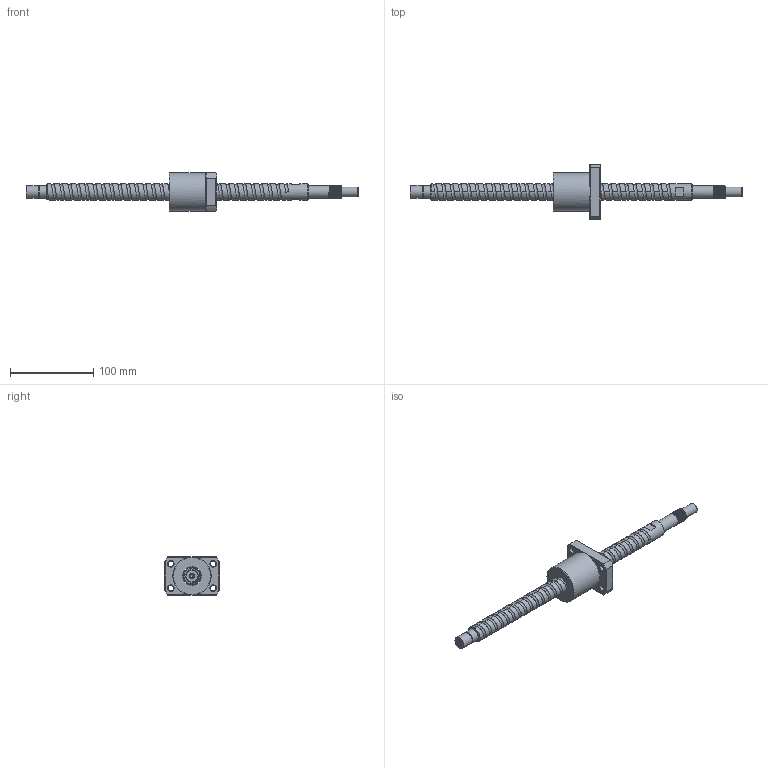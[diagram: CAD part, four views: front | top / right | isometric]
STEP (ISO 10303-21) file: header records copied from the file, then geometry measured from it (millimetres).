
FILE_DESCRIPTION (( 'STEP AP203' ), '1' );
FILE_NAME ('XSVR02010B1DGC5-399-P1.step', '2024-06-03T06:19:19', ( '' ), ( '' ), 'SwSTEP 2.0', 'SolidWorks 2022', '' );
FILE_SCHEMA (( 'CONFIG_CONTROL_DESIGN' ));
Products named in the file (1): XSVR02010B1DGC5-399-P1
Bounding box: 399 x 66 x 46 mm (x, y, z)
Volume: 191047.5 mm3; surface area: 45907.7 mm2
Topology: 2 solids, 2 shells, 189 faces, 516 edges, 339 vertices
Faces by surface type: cylinder 89, plane 40, bspline 31, cone 20, torus 9
Full cylindrical faces by diameter (mm): 4 x1, 5 x15, 6.6 x4, 11 x4, 12 x1, 14.3 x1, 15 x16, 20 x29, 22.3 x1, 46 x1
Entity records: 24273 total; most frequent: CARTESIAN_POINT 21615, ORIENTED_EDGE 594, DIRECTION 409, EDGE_CURVE 297, VERTEX_POINT 212, EDGE_LOOP 187, AXIS2_PLACEMENT_3D 179, FACE_OUTER_BOUND 150
